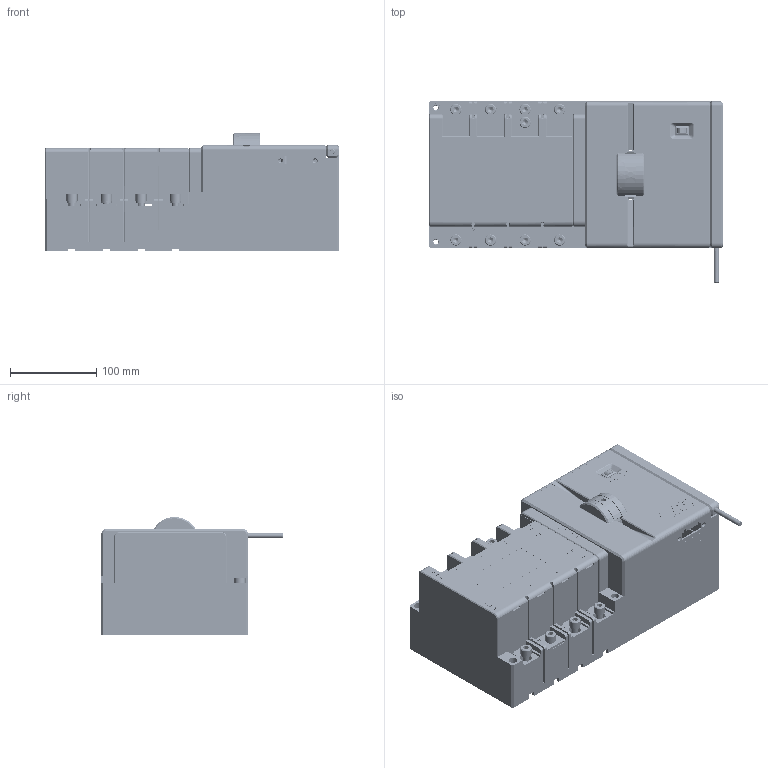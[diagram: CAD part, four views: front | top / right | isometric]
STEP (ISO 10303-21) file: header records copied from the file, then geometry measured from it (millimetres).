
FILE_DESCRIPTION((''),'2;1');
FILE_NAME('2597012200_SW0001','2022-11-14T',('gang.sun'),(''),'PRO/ENGINEER BY PARAMETRIC TECHNOLOGY CORPORATION, 2015440','PRO/ENGINEER BY PARAMETRIC TECHNOLOGY CORPORATION, 2015440','');
FILE_SCHEMA(('CONFIG_CONTROL_DESIGN'));
Products named in the file (1): 2597012200_SW0001
Bounding box: 340.2 x 210 x 136.5 mm (x, y, z)
Volume: 1731542.4 mm3; surface area: 922306.6 mm2
Topology: 21 solids, 21 shells, 9414 faces, 25765 edges, 16605 vertices
Faces by surface type: plane 6463, cylinder 2044, cone 347, bspline 214, torus 153, extrusion 139, sphere 54
Entity records: 326906 total; most frequent: CARTESIAN_POINT 87006, ORIENTED_EDGE 51494, DIRECTION 47662, EDGE_CURVE 25747, VECTOR 19538, LINE 19399, VERTEX_POINT 16605, AXIS2_PLACEMENT_3D 14062
